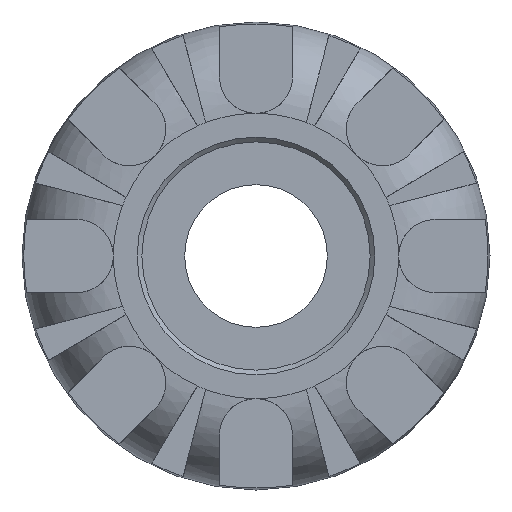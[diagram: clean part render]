
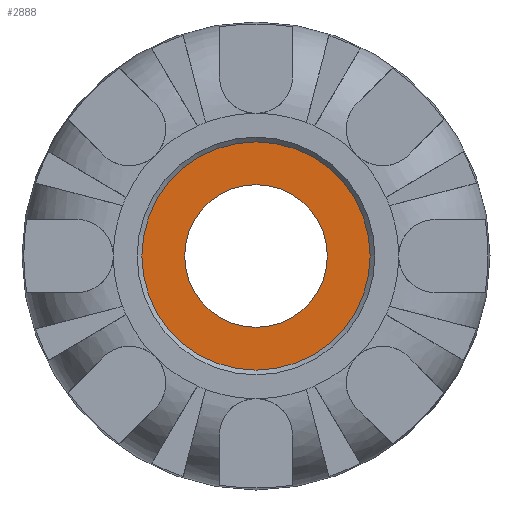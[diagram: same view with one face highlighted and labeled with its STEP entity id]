
A CAD part, left-side view. The second image highlights one B-rep face of the part: STEP entity #2888.
In plain terms, the highlighted planar face has unit normal (-1, 0, 0).
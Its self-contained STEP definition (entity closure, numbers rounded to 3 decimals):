
#37=FACE_BOUND('',#581,.T.);
#139=CIRCLE('',#3075,10.);
#186=CIRCLE('',#3197,6.25);
#399=FACE_OUTER_BOUND('',#580,.T.);
#580=EDGE_LOOP('',(#2450));
#581=EDGE_LOOP('',(#2451));
#1140=VERTEX_POINT('',#5295);
#1239=VERTEX_POINT('',#6405);
#1474=EDGE_CURVE('',#1140,#1140,#139,.T.);
#1643=EDGE_CURVE('',#1239,#1239,#186,.T.);
#2450=ORIENTED_EDGE('',*,*,#1474,.F.);
#2451=ORIENTED_EDGE('',*,*,#1643,.T.);
#2559=PLANE('',#3198);
#2888=ADVANCED_FACE('',(#399,#37),#2559,.T.);
#3075=AXIS2_PLACEMENT_3D('',#5296,#3645,#3646);
#3197=AXIS2_PLACEMENT_3D('',#6406,#3957,#3958);
#3198=AXIS2_PLACEMENT_3D('',#6407,#3959,#3960);
#3645=DIRECTION('center_axis',(1.,0.,0.));
#3646=DIRECTION('ref_axis',(0.,0.,-1.));
#3957=DIRECTION('center_axis',(1.,0.,0.));
#3958=DIRECTION('ref_axis',(0.,0.,-1.));
#3959=DIRECTION('center_axis',(-1.,0.,0.));
#3960=DIRECTION('ref_axis',(0.,0.,1.));
#5295=CARTESIAN_POINT('',(-1.,10.,0.));
#5296=CARTESIAN_POINT('Origin',(-1.,0.,
0.));
#6405=CARTESIAN_POINT('',(-1.,6.25,0.));
#6406=CARTESIAN_POINT('Origin',(-1.,0.,
0.));
#6407=CARTESIAN_POINT('Origin',(-1.,10.,0.));
